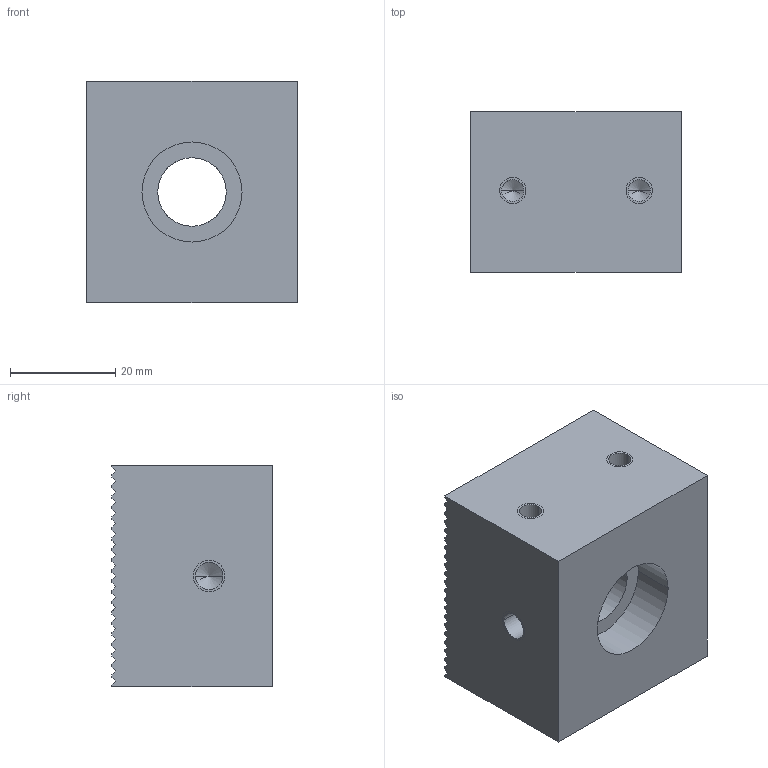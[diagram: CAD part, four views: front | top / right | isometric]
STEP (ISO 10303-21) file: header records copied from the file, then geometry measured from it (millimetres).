
FILE_DESCRIPTION((''),'2;1');
FILE_NAME('FG_VC_RAIL_R0002NP004','2026-03-29T10:46:58',('Admin'),(''),'CREO PARAMETRIC BY PTC INC, 2025010','CREO PARAMETRIC BY PTC INC, 2025010','');
FILE_SCHEMA(('CONFIG_CONTROL_DESIGN'));
Length unit declared in the file: millimetre
Products named in the file (1): FG_VC_RAIL_R0002NP004
Bounding box: 40 x 30.5 x 42 mm (x, y, z)
Volume: 44373.4 mm3; surface area: 11919.3 mm2
Topology: 1 solids, 7 shells, 134 faces, 376 edges, 244 vertices
Faces by surface type: plane 94, cylinder 28, cone 12
Entity records: 4265 total; most frequent: CARTESIAN_POINT 809, ORIENTED_EDGE 704, DIRECTION 686, EDGE_CURVE 364, VECTOR 260, LINE 260, VERTEX_POINT 244, AXIS2_PLACEMENT_3D 213
